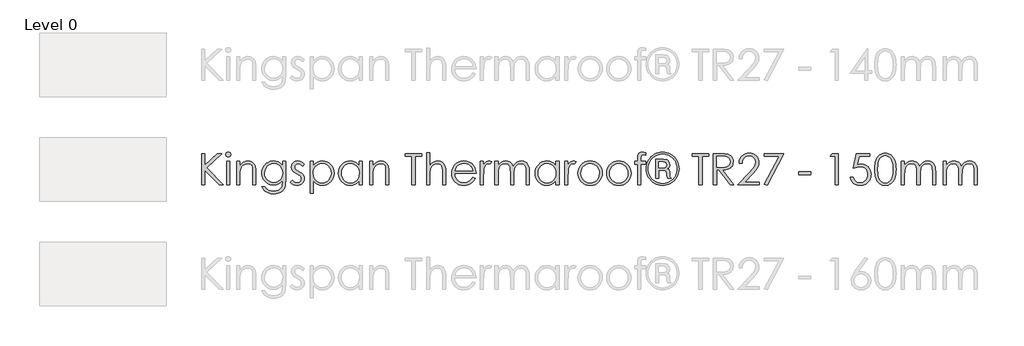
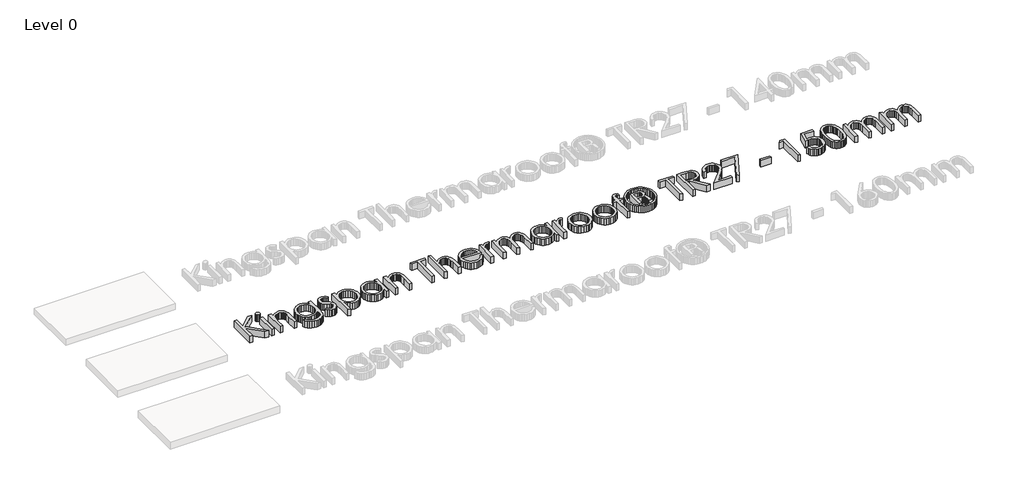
# One storey, part 3 of 12: 1 proxy.
"""IFC4 building model written with IfcOpenShell, lengths in millimetres."""

from ifc_helpers import new_model, si_unit, origin, origin_with_axes, place, context, project, spatial, polyline, outline, extrude, element, save

model = new_model("IFC4")

# Units and contexts
model_context = context("Model", 3, world=origin())
ifc_project = project(units=[si_unit("LENGTHUNIT", "METRE", prefix="MILLI")], contexts=[model_context])

# Site, building, storey
site = spatial("IfcSite", under=ifc_project)
building = spatial("IfcBuilding", under=site)
storey = spatial("IfcBuildingStorey", under=building, Name="Level 0", Elevation=0.0)

# Proxy
placement = place(None, origin())
element("IfcBuildingElementProxy", 1, Name="600mm KI_CenturyGothic", ObjectType="600mm KI_CenturyGothic", at=placement, inside=storey, context=model_context, shape_type="SweptSolid", body=[
    extrude(outline(polyline([(-3852.2663848, -11919.1039719), (-3792.944575, -11919.1039719), (-3792.944575, -12138.3165973), (-3555.1938841, -11919.1039719), (-3471.6181051, -11919.1039719), (-3760.9664119, -12186.0521161), (-3441.9572002, -12512.3220701), (-3520.8984627, -12512.3220701), (-3792.944575, -12234.0966027), (-3792.944575, -12512.3220701), (-3852.2663848, -12512.3220701), (-3852.2663848, -11919.1039719)])), origin_with_axes(), (0.0, 0.0, 1.0), 150.0),
    extrude(outline(polyline([(-3348.1854852, -11889.443067), (-3329.145347, -11892.7258494), (-3313.1176445, -11902.5741968), (-3302.226531, -11917.0184395), (-3298.5961598, -11934.0889082), (-3302.226531, -11950.9276511), (-3313.1176445, -11965.2946519), (-3329.145347, -11975.1429993), (-3348.1854852, -11978.4257817), (-3366.9938975, -11975.1429993), (-3382.9443581, -11965.2946519), (-3393.8354717, -11950.9276511), (-3397.4658428, -11934.0889082), (-3393.8354717, -11917.0184395), (-3382.9443581, -11902.5741968), (-3366.9938975, -11892.7258494), (-3348.1854852, -11889.443067)])), origin_with_axes(), (0.0, 0.0, 1.0), 150.0),
    extrude(outline(polyline([(-3377.6919062, -12067.4084965), (-3318.3700964, -12067.4084965), (-3318.3700964, -12512.3220701), (-3377.6919062, -12512.3220701), (-3377.6919062, -12067.4084965)])), origin_with_axes(), (0.0, 0.0, 1.0), 150.0),
    extrude(outline(polyline([(-3189.8395084, -12067.4084965), (-3130.5176986, -12067.4084965), (-3130.5176986, -12146.5042429), (-3096.9946967, -12106.9949906), (-3060.0730495, -12079.3037552), (-3019.7141359, -12062.9670849), (-2975.879335, -12057.5215282), (-2953.4357238, -12059.1001603), (-2932.2955704, -12063.8360567), (-2912.4588747, -12071.7292175), (-2893.9256368, -12082.7796425), (-2877.212412, -12096.5045697), (-2862.835756, -12112.4212369), (-2841.0921499, -12150.8297915), (-2833.6238199, -12175.2092788), (-2828.2892984, -12205.5557059), (-2824.0216812, -12284.1493797), (-2824.0216812, -12512.3220701), (-2883.343491, -12512.3220701), (-2883.343491, -12299.1343161), (-2883.343491, -12196.0935683), (-2884.7290183, -12175.296176), (-2889.8125035, -12157.2408725), (-2898.2849788, -12141.927658), (-2910.1464442, -12129.3565322), (-2924.7403432, -12119.5564611), (-2941.4101193, -12112.5564103), (-2980.977303, -12106.9563697), (-3005.3471351, -12109.1143164), (-3028.4038541, -12115.5881565), (-3050.1474602, -12126.3778899), (-3070.5779533, -12141.4835168), (-3088.6622225, -12159.7657184), (-3103.3671568, -12180.0851762), (-3114.6927562, -12202.4418902), (-3122.6390208, -12226.8358604), (-3128.5480292, -12273.9148227), (-3130.5176986, -12348.4146737), (-3130.5176986, -12512.3220701), (-3189.8395084, -12512.3220701), (-3189.8395084, -12067.4084965)])), origin_with_axes(), (0.0, 0.0, 1.0), 150.0),
    extrude(outline(polyline([(-2319.7862977, -12067.4084965), (-2260.4644879, -12067.4084965), (-2260.4644879, -12418.3958712), (-2264.5196897, -12498.6502468), (-2269.588692, -12529.4504703), (-2276.6852953, -12554.0327177), (-2289.9371156, -12582.6460288), (-2307.2924139, -12607.7737973), (-2328.7511904, -12629.4160234), (-2354.3134448, -12647.5727069), (-2383.3226209, -12661.93488), (-2415.122162, -12672.1935752), (-2449.7120682, -12678.3487923), (-2487.0923395, -12680.4005313), (-2541.0458345, -12676.3839504), (-2589.206184, -12664.3342078), (-2630.260275, -12645.506485), (-2662.8949946, -12621.1559634), (-2690.2000204, -12587.8067559), (-2715.2650299, -12541.982975), (-2655.94322, -12541.982975), (-2642.4355358, -12563.1520942), (-2627.0933555, -12581.3956749), (-2609.9166791, -12596.7137171), (-2590.9055067, -12609.1062208), (-2569.7894914, -12618.6697385), (-2546.2982864, -12625.5008225), (-2492.1903075, -12630.9656898), (-2438.5071593, -12625.6359959), (-2415.083541, -12618.9738786), (-2393.93856, -12609.6469144), (-2359.6624492, -12585.6053606), (-2336.8567664, -12556.11825), (-2329.3884364, -12537.4788044), (-2324.0539149, -12513.7703565), (-2319.7862977, -12451.1464538), (-2319.7862977, -12428.4373234), (-2354.757586, -12464.2196521), (-2396.6420279, -12490.617085), (-2443.392712, -12506.8958239), (-2492.9627269, -12512.3220701), (-2522.4063889, -12510.424815), (-2550.9521133, -12504.7330495), (-2578.5999001, -12495.2467738), (-2605.3497494, -12481.9659878), (-2630.1540674, -12465.4748336), (-2651.9652601, -12446.3574535), (-2670.7833277, -12424.6138474), (-2686.6082702, -12400.2440154), (-2699.1456025, -12373.928652), (-2708.1008399, -12346.3484518), (-2713.4739824, -12317.5034149), (-2715.2650299, -12287.3935412), (-2713.3967404, -12257.1050455), (-2707.7918722, -12227.8786265), (-2698.4504251, -12199.7142842), (-2685.3723991, -12172.6120186), (-2668.9971079, -12147.4263185), (-2649.7638648, -12125.0116731), (-2627.67267, -12105.3680823), (-2602.7235235, -12088.495546), (-2575.9833294, -12074.9444132), (-2548.5189922, -12065.2650326), (-2520.3305117, -12059.4574043), (-2491.4178881, -12057.5215282), (-2444.5320306, -12062.4650123), (-2400.8903346, -12077.2954648), (-2359.6045177, -12103.8666921), (-2319.7862977, -12144.0325008), (-2319.7862977, -12067.4084965)]), holes=[polyline([(-2484.1571458, -12106.9563697), (-2529.0154023, -12112.981241), (-2570.5908765, -12131.0558549), (-2606.2187212, -12159.7705461), (-2633.2340897, -12197.715649), (-2650.2659375, -12241.9945911), (-2655.94322, -12289.7107994), (-2653.0080263, -12325.6234738), (-2644.2024452, -12358.2823315), (-2629.5264766, -12387.6873725), (-2608.9801206, -12413.8385968), (-2583.7606272, -12435.2973732), (-2555.0652466, -12450.6250707), (-2522.8939786, -12459.8216891), (-2487.2468234, -12462.8872286), (-2451.3244937, -12459.8458272), (-2419.1001219, -12450.7216231), (-2390.573708, -12435.5146162), (-2365.7452519, -12414.2248065), (-2345.6382095, -12387.9818574), (-2331.2760363, -12357.9154323), (-2322.6587323, -12324.0255312), (-2319.7862977, -12286.3121541), (-2325.0773706, -12237.611111), (-2340.9505892, -12194.3942456), (-2366.4983608, -12158.1677758), (-2400.8130926, -12130.4379194), (-2440.9982119, -12112.8267571), (-2484.1571458, -12106.9563697)])]), origin_with_axes(), (0.0, 0.0, 1.0), 150.0),
    extrude(outline(polyline([(-1904.5336289, -12118.6971445), (-1940.9918246, -12156.3912112), (-1962.9575012, -12134.763468), (-1984.6721416, -12119.3150801), (-2006.1357456, -12110.0460473), (-2027.3483133, -12106.9563697), (-2052.181597, -12111.629507), (-2073.2300256, -12125.6489191), (-2087.5970264, -12145.8863074), (-2092.3860267, -12169.2133732), (-2088.4466878, -12190.7638744), (-2076.628671, -12211.2329885), (-2052.0657341, -12233.4014252), (-2010.2006027, -12259.1229912), (-1958.3326401, -12291.9894366), (-1939.8428507, -12307.8143791), (-1926.315856, -12323.2338013), (-1909.9791857, -12355.9071419), (-1904.5336289, -12392.4425794), (-1906.9474396, -12418.5889761), (-1914.1888714, -12442.6498404), (-1926.2579245, -12464.6251723), (-1943.1545989, -12484.5149718), (-1963.6719892, -12501.0061259), (-1986.6031901, -12512.7855218), (-2011.9482016, -12519.8531593), (-2039.7070237, -12522.2090384), (-2077.4397114, -12518.327631), (-2113.3958344, -12506.6834085), (-2145.4512394, -12488.2032744), (-2171.4817731, -12463.8141319), (-2135.7959969, -12423.3393554), (-2114.0041146, -12444.9670986), (-2091.5749863, -12460.4154865), (-2068.5086121, -12469.6845193), (-2044.8049918, -12472.7741969), (-2013.637869, -12467.1355353), (-1987.4914724, -12450.2195505), (-1969.7644472, -12425.6566136), (-1963.8554388, -12397.0770958), (-1967.7561567, -12373.2865784), (-1979.4583106, -12352.2767707), (-2005.0253927, -12330.5717856), (-2050.2119275, -12303.7688325), (-2099.762632, -12273.1037823), (-2117.441381, -12257.9450516), (-2130.3890611, -12242.9021839), (-2146.3781427, -12210.7695369), (-2151.7078365, -12174.3113412), (-2149.5305794, -12150.2649598), (-2142.9988078, -12128.3330765), (-2132.1125219, -12108.5156913), (-2116.8717217, -12090.8128042), (-2098.309518, -12076.247871), (-2077.4590218, -12065.8443472), (-2054.3202332, -12059.6022329), (-2028.8931521, -12057.5215282), (-1997.9481, -12061.3450042), (-1966.9064954, -12072.8154322), (-1935.7683384, -12091.9328124), (-1904.5336289, -12118.6971445)])), origin_with_axes(), (0.0, 0.0, 1.0), 150.0),
    extrude(outline(polyline([(-1795.7769776, -12067.4084965), (-1736.4551678, -12067.4084965), (-1736.4551678, -12148.5125333), (-1700.9238754, -12108.2694827), (-1660.4490989, -12079.9216907), (-1614.9922173, -12063.1215688), (-1564.5146096, -12057.5215282), (-1520.0618732, -12061.7601796), (-1478.9305402, -12074.476134), (-1441.1206107, -12095.6693912), (-1406.6320845, -12125.3399514), (-1377.9077381, -12160.9774514), (-1357.3903478, -12200.0715282), (-1345.0799137, -12242.6221818), (-1340.9764356, -12288.6294123), (-1345.0412927, -12335.5297526), (-1357.235864, -12378.7514456), (-1377.5601494, -12418.2944912), (-1406.014149, -12454.1588894), (-1440.2130179, -12483.9308296), (-1477.7719111, -12505.1965012), (-1518.6908288, -12517.9559041), (-1562.9697708, -12522.2090384), (-1612.6170277, -12516.7441712), (-1658.0545988, -12500.3495695), (-1699.3211052, -12473.1024752), (-1736.4551678, -12435.0801303), (-1736.4551678, -12670.513563), (-1795.7769776, -12670.513563), (-1795.7769776, -12067.4084965)]), holes=[polyline([(-1568.5311905, -12106.9563697), (-1602.5852307, -12110.253635), (-1633.8392507, -12120.1454309), (-1662.2932503, -12136.6317574), (-1687.9472295, -12159.7126146), (-1709.1694525, -12187.6983349), (-1724.3281832, -12218.899251), (-1733.4234216, -12253.3153629), (-1736.4551678, -12290.9466705), (-1731.048232, -12339.8021974), (-1714.8274246, -12383.4825144), (-1688.5265441, -12420.3269197), (-1652.8793888, -12448.6747117), (-1611.4390881, -12466.7493256), (-1567.7587711, -12472.7741969), (-1525.0632888, -12466.7107046), (-1485.0326535, -12448.5202278), (-1450.2544701, -12419.4193269), (-1423.3163435, -12380.6245626), (-1406.05277, -12335.9594109), (-1400.2982454, -12289.2473478), (-1405.9948385, -12242.3035588), (-1423.0846177, -12197.8701329), (-1449.8103289, -12159.5195098), (-1484.414718, -12130.8241291), (-1524.7157001, -12112.9233095), (-1568.5311905, -12106.9563697)])]), origin_with_axes(), (0.0, 0.0, 1.0), 150.0),
    extrude(outline(polyline([(-807.0801472, -12067.4084965), (-807.0801472, -12512.3220701), (-866.401957, -12512.3220701), (-866.401957, -12436.4704852), (-903.4780882, -12474.3190357), (-944.8797679, -12501.0447469), (-990.4525125, -12516.9179656), (-1040.0418379, -12522.2090384), (-1084.3159523, -12517.9559041), (-1125.2203871, -12505.1965012), (-1162.7551422, -12483.9308296), (-1196.9202178, -12454.1588894), (-1225.340424, -12418.2944912), (-1245.6405713, -12378.7514456), (-1257.8206597, -12335.5297526), (-1261.8806892, -12288.6294123), (-1257.7820388, -12242.6221818), (-1245.4860875, -12200.0715282), (-1224.9928353, -12160.9774514), (-1196.3022822, -12125.3399514), (-1161.8475494, -12095.6693912), (-1124.061758, -12074.476134), (-1082.9449079, -12061.7601796), (-1038.4969991, -12057.5215282), (-987.7490446, -12063.1215688), (-942.0990581, -12079.9216907), (-921.2051134, -12092.6086793), (-901.6242816, -12108.2694827), (-866.401957, -12148.5125333), (-866.401957, -12067.4084965), (-807.0801472, -12067.4084965)]), holes=[polyline([(-1034.3259343, -12106.9563697), (-1078.1414247, -12112.9233095), (-1118.4424068, -12130.8241291), (-1153.0467959, -12159.5195098), (-1179.7725071, -12197.8701329), (-1196.8622863, -12242.3035588), (-1202.5588794, -12289.2473478), (-1196.8043548, -12335.9594109), (-1179.5407813, -12380.6245626), (-1152.6026548, -12419.4193269), (-1117.8244713, -12448.5202278), (-1077.6779731, -12466.7107046), (-1034.6349021, -12472.7741969), (-991.0125165, -12466.7493256), (-949.7460102, -12448.6747117), (-914.2726493, -12420.3269197), (-888.0297002, -12383.4825144), (-871.8088928, -12339.8021974), (-866.401957, -12290.9466705), (-869.4337032, -12253.3153629), (-878.5289416, -12218.899251), (-893.6876723, -12187.6983349), (-914.9098953, -12159.7126146), (-940.5638746, -12136.6317574), (-969.0178742, -12120.1454309), (-1000.2718941, -12110.253635), (-1034.3259343, -12106.9563697)])]), origin_with_axes(), (0.0, 0.0, 1.0), 150.0),
    extrude(outline(polyline([(-668.662591, -12067.4084965), (-609.3407811, -12067.4084965), (-609.3407811, -12146.5042429), (-575.8177792, -12106.9949906), (-538.896132, -12079.3037552), (-498.5372184, -12062.9670849), (-454.7024175, -12057.5215282), (-432.2588064, -12059.1001603), (-411.1186529, -12063.8360567), (-391.2819572, -12071.7292175), (-372.7487193, -12082.7796425), (-356.0354946, -12096.5045697), (-341.6588385, -12112.4212369), (-319.9152324, -12150.8297915), (-312.4469024, -12175.2092788), (-307.1123809, -12205.5557059), (-302.8447637, -12284.1493797), (-302.8447637, -12512.3220701), (-362.1665735, -12512.3220701), (-362.1665735, -12299.1343161), (-362.1665735, -12196.0935683), (-363.5521008, -12175.296176), (-368.635586, -12157.2408725), (-377.1080613, -12141.927658), (-388.9695267, -12129.3565322), (-403.5634257, -12119.5564611), (-420.2332018, -12112.5564103), (-459.8003855, -12106.9563697), (-484.1702176, -12109.1143164), (-507.2269366, -12115.5881565), (-528.9705427, -12126.3778899), (-549.4010358, -12141.4835168), (-567.485305, -12159.7657184), (-582.1902393, -12180.0851762), (-593.5158387, -12202.4418902), (-601.4621033, -12226.8358604), (-607.3711117, -12273.9148227), (-609.3407811, -12348.4146737), (-609.3407811, -12512.3220701), (-668.662591, -12512.3220701), (-668.662591, -12067.4084965)])), origin_with_axes(), (0.0, 0.0, 1.0), 150.0),
    extrude(outline(polyline([(3.6512537, -11968.5388134), (3.6512537, -11919.1039719), (320.0342394, -11919.1039719), (320.0342394, -11968.5388134), (191.5036515, -11968.5388134), (191.5036515, -12512.3220701), (132.1818417, -12512.3220701), (132.1818417, -11968.5388134), (3.6512537, -11968.5388134)])), origin_with_axes(), (0.0, 0.0, 1.0), 150.0),
    extrude(outline(polyline([(409.0169542, -11899.3300353), (468.338764, -11899.3300353), (468.338764, -12148.0490817), (502.1128022, -12108.3467246), (539.1696229, -12080.0761746), (579.470605, -12063.1601898), (622.9771276, -12057.5215282), (645.4207388, -12059.1001603), (666.5608922, -12063.8360567), (686.3975879, -12071.7292175), (704.9308258, -12082.7796425), (721.6440506, -12096.4900868), (736.0207066, -12112.3633055), (757.7643127, -12150.5980657), (765.2326428, -12174.9051387), (770.5671642, -12205.2660486), (774.8347814, -12284.1493797), (774.8347814, -12512.3220701), (715.5129716, -12512.3220701), (715.5129716, -12299.1343161), (714.1226167, -12234.7531592), (709.9515519, -12196.0935683), (696.4342124, -12157.2408725), (686.7210385, -12141.927658), (675.0381951, -12129.3565322), (661.3953375, -12119.5564611), (645.8021209, -12112.5564103), (608.7646107, -12106.9563697), (585.8961689, -12109.1143164), (564.2539428, -12115.5881565), (543.8379326, -12126.3778899), (524.6481382, -12141.4835168), (507.659739, -12159.7657184), (493.8479146, -12180.0851762), (483.212665, -12202.4418902), (475.7539902, -12226.8358604), (470.1925705, -12273.6830969), (468.338764, -12348.4146737), (468.338764, -12512.3220701), (409.0169542, -12512.3220701), (409.0169542, -11899.3300353)])), origin_with_axes(), (0.0, 0.0, 1.0), 150.0),
    extrude(outline(polyline([(1280.6150037, -12364.0175456), (1328.5050064, -12389.198418), (1302.8799929, -12431.0828599), (1273.5859872, -12464.0458577), (1240.5071264, -12489.1301777), (1203.5275477, -12507.378586), (1162.048626, -12518.5014253), (1115.4717363, -12522.2090384), (1063.9803281, -12517.7772821), (1018.4172388, -12504.4820132), (978.7824684, -12482.3232317), (945.0760169, -12451.3009376), (918.1765113, -12414.6979134), (898.9625788, -12375.7969414), (887.4342193, -12334.5980217), (883.5914328, -12291.1011543), (886.8742152, -12250.2208577), (896.7225625, -12211.6191982), (913.1364748, -12175.296176), (936.1159519, -12141.251791), (972.3038007, -12104.619801), (1014.1303111, -12078.4540939), (1061.5954832, -12062.7546696), (1114.6993169, -12057.5215282), (1169.3479893, -12062.889843), (1218.2035163, -12078.9947874), (1261.2658978, -12105.8363615), (1298.5351338, -12143.4145653), (1320.008393, -12175.5858333), (1335.456781, -12211.5419563), (1344.8802977, -12251.2829343), (1348.278943, -12294.8087674), (942.9132426, -12294.8087674), (946.6498214, -12332.0635206), (956.1602353, -12365.8134207), (971.4444841, -12396.0584678), (992.502568, -12422.7986618), (1017.86689, -12444.6629584), (1046.0698533, -12460.2803131), (1077.1114579, -12469.650726), (1110.9917037, -12472.7741969), (1144.5147056, -12469.7617613), (1177.1108043, -12460.7244543), (1206.8489511, -12446.6857317), (1231.7980977, -12428.6690492), (1255.2796474, -12402.5033421), (1280.6150037, -12364.0175456)]), holes=[polyline([(1288.9571332, -12245.3739259), (1274.5322009, -12202.852238), (1254.7389538, -12169.8313087), (1228.6311782, -12144.3028476), (1195.2626601, -12124.2585642), (1157.3175572, -12111.2819183), (1117.4800267, -12106.9563697), (1085.0577224, -12109.6694928), (1054.9912973, -12117.8088622), (1027.2807514, -12131.3744779), (1001.9260846, -12150.3663399), (985.3866543, -12168.1802623), (970.9906877, -12189.9528341), (958.738185, -12215.6840553), (948.6291461, -12245.3739259), (1288.9571332, -12245.3739259)])]), origin_with_axes(), (0.0, 0.0, 1.0), 150.0),
    extrude(outline(polyline([(1427.3746895, -12067.4084965), (1486.6964993, -12067.4084965), (1486.6964993, -12131.8282743), (1512.2442709, -12098.7880345), (1539.1437765, -12075.673384), (1567.317774, -12062.0594921), (1596.6890217, -12057.5215282), (1620.0160875, -12061.3063832), (1644.8879922, -12072.6609484), (1615.3815711, -12114.6805637), (1586.8020534, -12106.9563697), (1560.3853099, -12112.903999), (1534.8954698, -12130.7468872), (1512.8428959, -12161.1029695), (1496.7379515, -12204.5901817), (1489.2068623, -12262.7147414), (1486.6964993, -12360.1554486), (1486.6964993, -12512.3220701), (1427.3746895, -12512.3220701), (1427.3746895, -12067.4084965)])), origin_with_axes(), (0.0, 0.0, 1.0), 150.0),
    extrude(outline(polyline([(1704.209802, -12067.4084965), (1763.5316118, -12067.4084965), (1763.5316118, -12143.5690492), (1793.1152748, -12107.0722326), (1823.4713571, -12081.9299812), (1866.8813274, -12063.6236414), (1912.4540719, -12057.5215282), (1943.2929164, -12060.6691372), (1972.4710592, -12070.1119644), (1998.2312461, -12084.7879329), (2018.8162231, -12103.6349663), (2035.5970345, -12129.066875), (2049.9447249, -12163.4974697), (2064.7220735, -12139.0986719), (2081.247021, -12117.8088622), (2099.5195674, -12099.6280406), (2119.5397127, -12084.5562071), (2140.83435, -12072.7285351), (2162.9303724, -12064.2801979), (2185.82778, -12059.2111956), (2209.5265726, -12057.5215282), (2251.8551557, -12063.3339841), (2271.0497777, -12070.5995541), (2288.9312868, -12080.7713521), (2305.0458865, -12093.5404102), (2318.9397805, -12108.5977609), (2340.065451, -12145.5773396), (2347.3648143, -12168.9526817), (2352.5786453, -12197.5225442), (2356.74971, -12270.2458306), (2356.74971, -12512.3220701), (2297.4279002, -12512.3220701), (2297.4279002, -12266.6927013), (2294.9754686, -12205.5750164), (2287.6181738, -12167.1278408), (2274.3132497, -12142.6614564), (2254.01793, -12123.4861448), (2227.9487753, -12111.0888135), (2197.3223461, -12106.9563697), (2177.6739277, -12108.5060361), (2158.894481, -12113.1550353), (2123.9425033, -12131.7510324), (2095.2085016, -12160.6974493), (2075.434565, -12197.9473748), (2068.743482, -12222.1047915), (2063.9641369, -12253.1753619), (2060.1406609, -12336.0559633), (2060.1406609, -12512.3220701), (2000.8188511, -12512.3220701), (2000.8188511, -12281.9866054), (1998.4050405, -12213.5309362), (1991.1636086, -12171.2989056), (1977.9166159, -12145.0559565), (1957.4861228, -12124.567532), (1931.1659318, -12111.3591602), (1900.2498454, -12106.9563697), (1863.3088876, -12113.0005515), (1828.801051, -12131.1330969), (1799.8353235, -12159.5001993), (1779.5206934, -12196.2480522), (1767.5288822, -12248.0773938), (1763.5316118, -12321.6889625), (1763.5316118, -12512.3220701), (1704.209802, -12512.3220701), (1704.209802, -12067.4084965)])), origin_with_axes(), (0.0, 0.0, 1.0), 150.0),
    extrude(outline(polyline([(2920.3069034, -12067.4084965), (2920.3069034, -12512.3220701), (2860.9850935, -12512.3220701), (2860.9850935, -12436.4704852), (2823.9089624, -12474.3190357), (2782.5072826, -12501.0447469), (2736.9345381, -12516.9179656), (2687.3452127, -12522.2090384), (2643.0710983, -12517.9559041), (2602.1666635, -12505.1965012), (2564.6319083, -12483.9308296), (2530.4668328, -12454.1588894), (2502.0466266, -12418.2944912), (2481.7464792, -12378.7514456), (2469.5663908, -12335.5297526), (2465.5063614, -12288.6294123), (2469.6050118, -12242.6221818), (2481.9009631, -12200.0715282), (2502.3942153, -12160.9774514), (2531.0847683, -12125.3399514), (2565.5395011, -12095.6693912), (2603.3252926, -12074.476134), (2644.4421427, -12061.7601796), (2688.8900515, -12057.5215282), (2739.638006, -12063.1215688), (2785.2879925, -12079.9216907), (2806.1819372, -12092.6086793), (2825.7627689, -12108.2694827), (2860.9850935, -12148.5125333), (2860.9850935, -12067.4084965), (2920.3069034, -12067.4084965)]), holes=[polyline([(2693.0611162, -12106.9563697), (2649.2456259, -12112.9233095), (2608.9446437, -12130.8241291), (2574.3402547, -12159.5195098), (2547.6145435, -12197.8701329), (2530.5247643, -12242.3035588), (2524.8281712, -12289.2473478), (2530.5826957, -12335.9594109), (2547.8462693, -12380.6245626), (2574.7843958, -12419.4193269), (2609.5625792, -12448.5202278), (2649.7090775, -12466.7107046), (2692.7521485, -12472.7741969), (2736.374534, -12466.7493256), (2777.6410404, -12448.6747117), (2813.1144013, -12420.3269197), (2839.3573504, -12383.4825144), (2855.5781577, -12339.8021974), (2860.9850935, -12290.9466705), (2857.9533474, -12253.3153629), (2848.858109, -12218.899251), (2833.6993783, -12187.6983349), (2812.4771553, -12159.7126146), (2786.823176, -12136.6317574), (2758.3691764, -12120.1454309), (2727.1151565, -12110.253635), (2693.0611162, -12106.9563697)])]), origin_with_axes(), (0.0, 0.0, 1.0), 150.0),
    extrude(outline(polyline([(3029.0635547, -12067.4084965), (3088.3853645, -12067.4084965), (3088.3853645, -12131.8282743), (3113.9331361, -12098.7880345), (3140.8326417, -12075.673384), (3169.0066393, -12062.0594921), (3198.3778869, -12057.5215282), (3221.7049527, -12061.3063832), (3246.5768574, -12072.6609484), (3217.0704364, -12114.6805637), (3188.4909186, -12106.9563697), (3162.0741752, -12112.903999), (3136.584335, -12130.7468872), (3114.5317612, -12161.1029695), (3098.4268167, -12204.5901817), (3090.8957276, -12262.7147414), (3088.3853645, -12360.1554486), (3088.3853645, -12512.3220701), (3029.0635547, -12512.3220701), (3029.0635547, -12067.4084965)])), origin_with_axes(), (0.0, 0.0, 1.0), 150.0),
    extrude(outline(polyline([(3508.7360013, -12057.5215282), (3558.0453247, -12062.1463893), (3602.932547, -12076.0209728), (3643.3976682, -12099.1452785), (3679.4406884, -12131.5193066), (3706.340194, -12166.7512864), (3725.5541265, -12205.0922543), (3737.0824861, -12246.5422103), (3740.9252726, -12291.1011543), (3736.8604155, -12335.9159623), (3724.6658442, -12377.8245423), (3704.3415588, -12416.8268943), (3675.8875592, -12452.9230184), (3641.0514443, -12483.2356521), (3601.580813, -12504.8875334), (3557.4756654, -12517.8786622), (3508.7360013, -12522.2090384), (3459.8611639, -12517.8786622), (3415.6594638, -12504.8875334), (3376.130901, -12483.2356521), (3341.2754757, -12452.9230184), (3312.8214761, -12416.8268943), (3292.4971906, -12377.8245423), (3280.3026194, -12335.9159623), (3276.2377623, -12291.1011543), (3280.0805488, -12246.7353151), (3291.6089083, -12205.401222), (3310.8228409, -12167.0988751), (3337.7223464, -12131.8282743), (3373.7846771, -12099.3190729), (3414.3077298, -12076.0982147), (3459.2915046, -12062.1656998), (3508.7360013, -12057.5215282)]), holes=[polyline([(3508.5815174, -12106.9563697), (3474.3054066, -12110.3308769), (3442.5396588, -12120.4543987), (3413.2842741, -12137.3269349), (3386.5392524, -12160.9484856), (3364.2356423, -12189.3590367), (3348.3044922, -12220.5985737), (3338.7458021, -12254.6670968), (3335.5595721, -12291.564606), (3341.3720281, -12339.3001248), (3358.809396, -12383.6369983), (3386.1530427, -12421.4276174), (3421.6843351, -12449.524373), (3463.2211882, -12466.9617409), (3508.5815174, -12472.7741969), (3553.9418466, -12466.9617409), (3595.4786998, -12449.524373), (3631.0099921, -12421.4276174), (3658.3536389, -12383.6369983), (3675.7910068, -12339.3001248), (3681.6034628, -12291.564606), (3678.4027499, -12254.6670968), (3668.8006112, -12220.5985737), (3652.7970468, -12189.3590367), (3630.3920566, -12160.9484856), (3603.5746206, -12137.3269349), (3574.3337188, -12120.4543987), (3542.669351, -12110.3308769), (3508.5815174, -12106.9563697)])]), origin_with_axes(), (0.0, 0.0, 1.0), 150.0),
    extrude(outline(polyline([(4052.519258, -12057.5215282), (4101.8285814, -12062.1463893), (4146.7158037, -12076.0209728), (4187.180925, -12099.1452785), (4223.2239452, -12131.5193066), (4250.1234507, -12166.7512864), (4269.3373833, -12205.0922543), (4280.8657428, -12246.5422103), (4284.7085293, -12291.1011543), (4280.6436722, -12335.9159623), (4268.4491009, -12377.8245423), (4248.1248155, -12416.8268943), (4219.6708159, -12452.9230184), (4184.834701, -12483.2356521), (4145.3640698, -12504.8875334), (4101.2589221, -12517.8786622), (4052.519258, -12522.2090384), (4003.6444206, -12517.8786622), (3959.4427205, -12504.8875334), (3919.9141578, -12483.2356521), (3885.0587324, -12452.9230184), (3856.6047328, -12416.8268943), (3836.2804474, -12377.8245423), (3824.0858761, -12335.9159623), (3820.021019, -12291.1011543), (3823.8638055, -12246.7353151), (3835.392165, -12205.401222), (3854.6060976, -12167.0988751), (3881.5056031, -12131.8282743), (3917.5679338, -12099.3190729), (3958.0909865, -12076.0982147), (4003.0747613, -12062.1656998), (4052.519258, -12057.5215282)]), holes=[polyline([(4052.3647741, -12106.9563697), (4018.0886633, -12110.3308769), (3986.3229156, -12120.4543987), (3957.0675308, -12137.3269349), (3930.3225091, -12160.9484856), (3908.018899, -12189.3590367), (3892.0877489, -12220.5985737), (3882.5290589, -12254.6670968), (3879.3428288, -12291.564606), (3885.1552848, -12339.3001248), (3902.5926527, -12383.6369983), (3929.9362994, -12421.4276174), (3965.4675918, -12449.524373), (4007.004445, -12466.9617409), (4052.3647741, -12472.7741969), (4097.7251033, -12466.9617409), (4139.2619565, -12449.524373), (4174.7932489, -12421.4276174), (4202.1368956, -12383.6369983), (4219.5742635, -12339.3001248), (4225.3867195, -12291.564606), (4222.1860066, -12254.6670968), (4212.5838679, -12220.5985737), (4196.5803035, -12189.3590367), (4174.1753133, -12160.9484856), (4147.3578773, -12137.3269349), (4118.1169755, -12120.4543987), (4086.4526077, -12110.3308769), (4052.3647741, -12106.9563697)])]), origin_with_axes(), (0.0, 0.0, 1.0), 150.0),
    extrude(outline(polyline([(4561.5436418, -11900.7203902), (4561.5436418, -11952.318006), (4535.2813822, -11942.2379329), (4513.0357036, -11938.8779085), (4499.3059487, -11940.5579207), (4488.086557, -11945.5979573), (4479.9761533, -11952.8200787), (4475.5733627, -11961.0463453), (4473.0243787, -12007.623235), (4473.0243787, -12067.4084965), (4561.5436418, -12067.4084965), (4561.5436418, -12116.843338), (4472.8698948, -12116.843338), (4472.8698948, -12512.3220701), (4413.2391172, -12512.3220701), (4413.2391172, -12116.843338), (4353.9173074, -12116.843338), (4353.9173074, -12067.4084965), (4413.2391172, -12067.4084965), (4413.2391172, -11999.899041), (4415.3246496, -11960.0615105), (4421.5812467, -11933.5482147), (4432.8392595, -11915.6280846), (4449.9290387, -11901.5700515), (4472.000923, -11892.4748131), (4498.2052511, -11889.443067), (4527.2482205, -11892.2623978), (4561.5436418, -11900.7203902)])), origin_with_axes(), (0.0, 0.0, 1.0), 150.0),
    extrude(outline(polyline([(5194.3096132, -12205.2081172), (5191.7075254, -12247.1504905), (5183.9012619, -12287.5480251), (5170.8908226, -12326.4007209), (5152.6762077, -12363.7085778), (5129.9284564, -12398.3467602), (5103.3186081, -12429.1904323), (5072.8466628, -12456.2395942), (5038.5126205, -12479.4942457), (5001.5958009, -12498.1819675), (4963.3755235, -12511.5303402), (4923.8517884, -12519.5393639), (4883.0245956, -12522.2090384), (4842.2649894, -12519.5538468), (4802.7895305, -12511.5882717), (4764.5982189, -12498.3123133), (4727.6910545, -12479.7259715), (4693.3425293, -12456.5582172), (4662.8271355, -12429.5380211), (4636.1448729, -12398.6653832), (4613.2957415, -12363.9403036), (4594.9797465, -12326.6372743), (4581.896893, -12288.0307872), (4574.0471808, -12248.1208424), (4571.4306101, -12206.9074399), (4574.0471808, -12165.2402409), (4581.896893, -12124.8958102), (4594.9797465, -12085.8741477), (4613.2957415, -12048.1752534), (4636.13039, -12013.1218956), (4662.769204, -11982.0368424), (4693.2121836, -11954.9200939), (4727.4593286, -11931.77165), (4764.2940787, -11913.252895), (4802.4998732, -11900.0252128), (4842.0767122, -11892.0886034), (4883.0245956, -11889.443067), (4923.9531684, -11892.0741206), (4963.4720759, -11899.9672813), (5001.581318, -11913.1225492), (5038.2808947, -11931.5399242), (5072.4025216, -11954.586988), (5102.7779145, -11981.6313222), (5129.4070733, -12012.6729268), (5152.289998, -12047.7118018), (5170.6735796, -12085.3334541), (5183.8047094, -12124.1233908), (5191.6833873, -12164.0816118), (5194.3096132, -12205.2081172)]), holes=[polyline([(5154.76174, -12205.8260527), (5152.4782752, -12169.6816525), (5145.6278806, -12134.6282946), (5134.2105564, -12100.6659792), (5118.2263025, -12067.7947062), (5098.3220201, -12037.1924151), (5075.1446105, -12010.0370456), (5048.6940737, -11986.3285977), (5018.9704097, -11966.0670713), (4987.0115571, -11949.846264), (4953.8554544, -11938.259973), (4919.5021017, -11931.3081984), (4883.9514988, -11928.9909402), (4848.1353768, -11931.3081984), (4813.4489182, -11938.259973), (4779.892123, -11949.846264), (4747.4649911, -11966.0670713), (4717.3116688, -11986.3285977), (4690.5763024, -12010.0370456), (4667.2588918, -12037.1924151), (4647.359437, -12067.7947062), (4631.4427698, -12100.7142554), (4620.0737217, -12134.8213995), (4613.2522929, -12170.1161384), (4610.9784833, -12206.5984721), (4613.2522929, -12242.9070115), (4620.0737217, -12277.989335), (4631.4427698, -12311.8454428), (4647.359437, -12344.4753348), (4667.268547, -12374.8072791), (4690.6149233, -12401.7695437), (4717.398566, -12425.3621287), (4747.619475, -12445.5850341), (4780.0948831, -12461.8058415), (4813.6420231, -12473.3921324), (4848.260895, -12480.343907), (4883.9514988, -12482.6611652), (4919.3234797, -12480.3294242), (4953.6044181, -12473.334201), (4986.7943142, -12461.6754957), (5018.8931678, -12445.3533083), (5048.7761433, -12425.0435057), (5075.3184049, -12401.421955), (5098.5199526, -12374.488656), (5118.3807864, -12344.243609), (5134.2974536, -12311.6668208), (5145.6665016, -12277.7382987), (5152.4879304, -12242.4580427), (5154.76174, -12205.8260527)])]), origin_with_axes(), (0.0, 0.0, 1.0), 150.0),
    extrude(outline(polyline([(4749.3960396, -12027.8606232), (4893.5294994, -12027.8606232), (4936.9587801, -12030.4675387), (4966.2141648, -12038.2882851), (4986.3356901, -12052.0180399), (5002.3633927, -12072.3519806), (5012.848986, -12097.9576837), (5016.3441838, -12127.5027257), (5014.722103, -12152.799461), (5009.8558608, -12174.3113412), (4997.0336988, -12189.5666244), (4974.6335362, -12206.2895044), (4995.2957552, -12218.976493), (5007.8475704, -12233.5559091), (5014.2200304, -12254.6622692), (5016.3441838, -12286.9300896), (5016.3441838, -12327.0958983), (5021.4035308, -12353.0491901), (5036.581572, -12374.3679655), (5046.0050887, -12383.7914822), (4976.7963106, -12383.7914822), (4967.7590036, -12359.653376), (4961.9658581, -12331.4214469), (4957.022374, -12287.8569929), (4954.4540795, -12267.3299473), (4949.8388735, -12253.9477813), (4942.9836514, -12245.5090993), (4933.6953081, -12239.8125063), (4918.0151943, -12236.5683448), (4891.9846606, -12235.4869576), (4808.7178494, -12235.4869576), (4808.7178494, -12383.7914822), (4749.3960396, -12383.7914822), (4749.3960396, -12027.8606232)]), holes=[polyline([(4808.7178494, -12077.2954648), (4808.7178494, -12186.0521161), (4888.5860152, -12186.0521161), (4919.1738234, -12183.7348579), (4938.0208567, -12176.7830833), (4946.3340205, -12168.8947502), (4952.2719947, -12158.6698484), (4957.022374, -12131.2103388), (4953.6044181, -12106.9949906), (4943.3505506, -12090.2721107), (4923.6345454, -12080.5396262), (4891.8301767, -12077.2954648), (4808.7178494, -12077.2954648)])]), origin_with_axes(), (0.0, 0.0, 1.0), 150.0),
    extrude(outline(polyline([(5441.4838208, -11968.5388134), (5441.4838208, -11919.1039719), (5757.8668066, -11919.1039719), (5757.8668066, -11968.5388134), (5629.3362186, -11968.5388134), (5629.3362186, -12512.3220701), (5570.0144088, -12512.3220701), (5570.0144088, -11968.5388134), (5441.4838208, -11968.5388134)])), origin_with_axes(), (0.0, 0.0, 1.0), 150.0),
    extrude(outline(polyline([(5846.8495213, -11919.1039719), (5966.5745281, -11919.1039719), (6050.4206538, -11921.0350204), (6102.0568906, -11926.8281659), (6127.5370756, -11934.3640826), (6150.5262079, -11945.2310581), (6171.0242877, -11959.4290921), (6189.0313149, -11976.9581849), (6203.6976283, -11997.2583322), (6214.1735664, -12019.76953), (6220.4591292, -12044.4917784), (6222.5543169, -12071.4250773), (6216.7804818, -12115.2791887), (6209.5631881, -12135.1062291), (6199.4589768, -12153.5332594), (6186.6754358, -12170.1740698), (6171.4201527, -12184.6424507), (6133.4943602, -12207.0619238), (6110.0176381, -12214.9985331), (6082.4567484, -12220.7337471), (6015.0824664, -12225.5999893), (6232.4412852, -12512.3220701), (6160.4517972, -12512.3220701), (5943.0929784, -12225.5999893), (5906.1713311, -12225.5999893), (5906.1713311, -12512.3220701), (5846.8495213, -12512.3220701), (5846.8495213, -11919.1039719)]), holes=[polyline([(5906.1713311, -11968.5388134), (5906.1713311, -12176.1651478), (6011.0658855, -12176.7830833), (6064.1310982, -12173.8865106), (6101.2844713, -12165.1967923), (6127.276384, -12150.1153036), (6146.8572158, -12128.0434193), (6159.1386842, -12100.9894298), (6163.232507, -12070.9616257), (6159.0807528, -12041.7448619), (6146.62549, -12015.270187), (6127.4308679, -11993.7389963), (6103.0610359, -11979.352685), (6067.2014653, -11971.2422813), (6013.5376276, -11968.5388134), (5906.1713311, -11968.5388134)])]), origin_with_axes(), (0.0, 0.0, 1.0), 150.0),
    extrude(outline(polyline([(6390.632778, -12097.0694014), (6331.3109682, -12097.0694014), (6335.7958283, -12057.8111854), (6346.9331505, -12022.2219616), (6364.7229348, -11990.30173), (6389.1651812, -11962.0504905), (6418.5605669, -11938.93584), (6451.2097694, -11922.4253753), (6487.1127885, -11912.5190965), (6526.2696244, -11909.2170036), (6564.7409381, -11912.5142689), (6599.35981, -11922.4060648), (6630.1262402, -11938.8923914), (6657.0402286, -11961.9732485), (6678.9045253, -11989.5341382), (6694.52188, -12019.4605623), (6703.8922928, -12051.7525208), (6707.0157637, -12086.4100137), (6700.932961, -12135.2076092), (6682.6845527, -12180.8769061), (6646.902224, -12232.7641792), (6588.2176602, -12300.2157032), (6435.4331031, -12462.8872286), (6716.902732, -12462.8872286), (6716.902732, -12512.3220701), (6311.5370316, -12512.3220701), (6537.5469477, -12271.6361855), (6594.2811525, -12206.11571), (6626.993114, -12160.0215824), (6642.5187439, -12122.655794), (6647.6939539, -12083.3203361), (6645.4442824, -12058.7139506), (6638.6952679, -12035.8744745), (6627.4469104, -12014.8019078), (6611.6992099, -11995.4962504), (6592.6880375, -11979.3768231), (6571.6492641, -11967.8629464), (6548.5828898, -11960.9546204), (6523.4889146, -11958.6518451), (6497.1542407, -11960.9256547), (6473.1464803, -11967.7470835), (6451.4656333, -11979.1161316), (6432.1116997, -11995.0327988), (6415.8764095, -12015.0529441), (6403.5514925, -12038.7324263), (6395.1369486, -12066.0712454), (6390.632778, -12097.0694014)])), origin_with_axes(), (0.0, 0.0, 1.0), 150.0),
    extrude(outline(polyline([(6805.8854468, -11919.1039719), (7181.5902423, -11919.1039719), (6865.2072566, -12522.2090384), (6811.2923826, -12499.8088759), (7089.9813016, -11968.5388134), (6805.8854468, -11968.5388134), (6805.8854468, -11919.1039719)])), origin_with_axes(), (0.0, 0.0, 1.0), 150.0),
    extrude(outline(polyline([(7458.4253548, -12265.1478625), (7685.8256258, -12265.1478625), (7685.8256258, -12314.5827041), (7458.4253548, -12314.5827041), (7458.4253548, -12265.1478625)])), origin_with_axes(), (0.0, 0.0, 1.0), 150.0),
    extrude(outline(polyline([(8095.362391, -11919.1039719), (8209.8349459, -11919.1039719), (8209.8349459, -12512.3220701), (8150.5131361, -12512.3220701), (8150.5131361, -11968.5388134), (8061.5304214, -11968.5388134), (8095.362391, -11919.1039719)])), origin_with_axes(), (0.0, 0.0, 1.0), 150.0),
    extrude(outline(polyline([(8812.9400125, -11919.1039719), (8812.9400125, -11968.5388134), (8605.6226458, -11968.5388134), (8571.1727407, -12129.5110161), (8608.7509444, -12120.0102575), (8642.3898092, -12116.843338), (8681.9763034, -12120.2661214), (8717.9324264, -12130.5344718), (8750.2581783, -12147.6483891), (8778.9535589, -12171.6078733), (8802.4737296, -12200.9163619), (8819.2738515, -12234.0772922), (8829.3539247, -12271.0906643), (8832.7139491, -12311.9564781), (8830.9904883, -12340.9222056), (8825.8201059, -12368.652062), (8817.202802, -12395.1460473), (8805.1385765, -12420.4041617), (8790.1343297, -12443.6057094), (8772.6969618, -12463.9299948), (8752.8264728, -12481.377018), (8730.5228626, -12495.9467789), (8706.0902715, -12507.4365174), (8679.8328396, -12515.6434735), (8651.7505668, -12520.5676472), (8621.8434532, -12522.2090384), (8586.5100934, -12519.4524667), (8554.0443405, -12511.1827515), (8524.4461947, -12497.3998929), (8497.7156558, -12478.1038908), (8474.9630769, -12454.4340638), (8457.2988108, -12427.5297306), (8444.7228575, -12397.3908912), (8437.2352169, -12364.0175456), (8496.5570267, -12364.0175456), (8506.1350273, -12396.7488176), (8520.656512, -12422.6441779), (8540.4883801, -12442.9588081), (8565.9975307, -12458.9478897), (8595.0211896, -12469.3176201), (8625.3965825, -12472.7741969), (8654.6857605, -12469.8486584), (8681.84113, -12461.072043), (8706.8626909, -12446.4443507), (8729.7504432, -12425.9655814), (8748.8436852, -12401.0936767), (8762.4817152, -12373.2865784), (8770.6645333, -12342.5442863), (8773.3921393, -12308.8668005), (8770.9300524, -12278.6796849), (8763.5437919, -12251.4567287), (8751.2333578, -12227.197932), (8733.9987499, -12205.9032947), (8712.6413535, -12188.5673068), (8687.9625538, -12176.1844583), (8659.9623506, -12168.7547492), (8628.6407439, -12166.2781795), (8599.935708, -12168.1319861), (8568.3534099, -12173.6934057), (8496.5570267, -12195.9390844), (8555.8788366, -11919.1039719), (8812.9400125, -11919.1039719)])), origin_with_axes(), (0.0, 0.0, 1.0), 150.0),
    extrude(outline(polyline([(8901.9227272, -12215.8675049), (8903.5013594, -12161.4360754), (8908.2372558, -12113.541245), (8916.1304165, -12072.1830139), (8927.1808415, -12037.3613818), (8941.1085288, -12007.7197874), (8957.6334763, -11981.901669), (8976.7556841, -11959.9070266), (8998.475152, -11941.7358603), (9022.1691171, -11927.5088605), (9047.2148161, -11917.3467178), (9073.6122491, -11911.2494321), (9101.361416, -11909.2170036), (9129.5643793, -11911.263915), (9156.3962981, -11917.4046492), (9181.8571726, -11927.6392063), (9205.9470026, -11941.9675861), (9228.1299222, -11960.3849611), (9247.8700654, -11982.8865038), (9265.1674323, -12009.4722139), (9280.0220229, -12040.1420917), (9291.951075, -12075.6589012), (9300.4718265, -12116.7854065), (9305.5842774, -12163.5216078), (9307.2884277, -12215.8675049), (9305.6084155, -12268.0540905), (9300.5683789, -12314.621325), (9292.1683179, -12355.5692084), (9280.4082326, -12390.8977407), (9265.6984707, -12421.4227898), (9248.44938, -12447.9602237), (9228.6609605, -12470.5100426), (9206.3332123, -12489.0722462), (9182.0744155, -12503.5695928), (9156.4928505, -12513.9248404), (9129.5885174, -12520.1379889), (9101.361416, -12522.2090384), (9073.6363872, -12520.200748), (9047.3113685, -12514.1758767), (9022.3863601, -12504.1344245), (8998.8613617, -12490.0763914), (8977.2867224, -12472.0403985), (8958.2127909, -12450.0650666), (8941.6395672, -12424.1503958), (8927.5670512, -12394.296386), (8916.3476595, -12359.2768215), (8908.3338082, -12317.8654865), (8903.5254975, -12270.062381), (8901.9227272, -12215.8675049)]), holes=[polyline([(8961.244537, -12215.713021), (8965.6280171, -12304.0391793), (8971.1073672, -12339.0201228), (8978.7784574, -12367.8796426), (8988.5930114, -12392.1191288), (9000.502753, -12413.2399718), (9014.5076822, -12431.2421714), (9030.607799, -12446.1257277), (9065.9073656, -12466.1120796), (9084.3102577, -12471.1086676), (9103.2152225, -12472.7741969), (9122.2070845, -12471.1424609), (9140.5617004, -12466.247253), (9175.3591944, -12446.6664212), (9191.1165501, -12431.9904527), (9204.8656154, -12414.0703226), (9216.6063903, -12392.9060311), (9226.3388747, -12368.4975781), (9235.8010123, -12335.1387153), (9242.5596821, -12298.5550015), (9247.9666178, -12215.713021), (9243.1389966, -12134.1069115), (9237.10447, -12099.4156253), (9228.6561329, -12068.7988514), (9218.0739871, -12042.1358993), (9205.6380348, -12019.3060784), (9191.3482759, -12000.3093888), (9175.2047105, -11985.1458305), (9140.1368698, -11965.2753415), (9121.907772, -11960.3077192), (9103.2152225, -11958.6518451), (9084.1992224, -11960.3077192), (9065.7721922, -11965.2753415), (9030.685041, -11985.1458305), (9014.739408, -11999.9569725), (9000.8117207, -12017.896413), (8988.9019791, -12038.9641521), (8979.0101832, -12063.1601898), (8971.237713, -12092.0148819), (8965.6859486, -12127.0585845), (8961.244537, -12215.713021)])]), origin_with_axes(), (0.0, 0.0, 1.0), 150.0),
    extrude(outline(polyline([(9406.1581107, -12067.4084965), (9465.4799205, -12067.4084965), (9465.4799205, -12143.5690492), (9495.0635835, -12107.0722326), (9525.4196659, -12081.9299812), (9568.8296361, -12063.6236414), (9614.4023806, -12057.5215282), (9645.2412251, -12060.6691372), (9674.4193679, -12070.1119644), (9700.1795548, -12084.7879329), (9720.7645318, -12103.6349663), (9737.5453433, -12129.066875), (9751.8930336, -12163.4974697), (9766.6703822, -12139.0986719), (9783.1953297, -12117.8088622), (9801.4678761, -12099.6280406), (9821.4880214, -12084.5562071), (9842.7826587, -12072.7285351), (9864.8786811, -12064.2801979), (9887.7760887, -12059.2111956), (9911.4748814, -12057.5215282), (9953.8034644, -12063.3339841), (9972.9980865, -12070.5995541), (9990.8795956, -12080.7713521), (10006.9941953, -12093.5404102), (10020.8880892, -12108.5977609), (10042.0137597, -12145.5773396), (10049.3131231, -12168.9526817), (10054.526954, -12197.5225442), (10058.6980188, -12270.2458306), (10058.6980188, -12512.3220701), (9999.3762089, -12512.3220701), (9999.3762089, -12266.6927013), (9996.9237773, -12205.5750164), (9989.5664826, -12167.1278408), (9976.2615584, -12142.6614564), (9955.9662387, -12123.4861448), (9929.897084, -12111.0888135), (9899.2706549, -12106.9563697), (9879.6222364, -12108.5060361), (9860.8427898, -12113.1550353), (9825.890812, -12131.7510324), (9797.1568103, -12160.6974493), (9777.3828737, -12197.9473748), (9770.6917907, -12222.1047915), (9765.9124457, -12253.1753619), (9762.0889696, -12336.0559633), (9762.0889696, -12512.3220701), (9702.7671598, -12512.3220701), (9702.7671598, -12281.9866054), (9700.3533492, -12213.5309362), (9693.1119173, -12171.2989056), (9679.8649246, -12145.0559565), (9659.4344316, -12124.567532), (9633.1142405, -12111.3591602), (9602.1981541, -12106.9563697), (9565.2571964, -12113.0005515), (9530.7493597, -12131.1330969), (9501.7836323, -12159.5001993), (9481.4690021, -12196.2480522), (9469.4771909, -12248.0773938), (9465.4799205, -12321.6889625), (9465.4799205, -12512.3220701), (9406.1581107, -12512.3220701), (9406.1581107, -12067.4084965)])), origin_with_axes(), (0.0, 0.0, 1.0), 150.0),
    extrude(outline(polyline([(10197.115575, -12067.4084965), (10256.4373848, -12067.4084965), (10256.4373848, -12143.5690492), (10286.0210478, -12107.0722326), (10316.3771302, -12081.9299812), (10359.7871004, -12063.6236414), (10405.3598449, -12057.5215282), (10436.1986894, -12060.6691372), (10465.3768322, -12070.1119644), (10491.1370191, -12084.7879329), (10511.7219961, -12103.6349663), (10528.5028076, -12129.066875), (10542.8504979, -12163.4974697), (10557.6278465, -12139.0986719), (10574.152794, -12117.8088622), (10592.4253404, -12099.6280406), (10612.4454857, -12084.5562071), (10633.740123, -12072.7285351), (10655.8361454, -12064.2801979), (10678.733553, -12059.2111956), (10702.4323457, -12057.5215282), (10744.7609287, -12063.3339841), (10763.9555508, -12070.5995541), (10781.8370599, -12080.7713521), (10797.9516596, -12093.5404102), (10811.8455535, -12108.5977609), (10832.9712241, -12145.5773396), (10840.2705874, -12168.9526817), (10845.4844183, -12197.5225442), (10849.6554831, -12270.2458306), (10849.6554831, -12512.3220701), (10790.3336732, -12512.3220701), (10790.3336732, -12266.6927013), (10787.8812417, -12205.5750164), (10780.5239469, -12167.1278408), (10767.2190227, -12142.6614564), (10746.923703, -12123.4861448), (10720.8545483, -12111.0888135), (10690.2281192, -12106.9563697), (10670.5797007, -12108.5060361), (10651.8002541, -12113.1550353), (10616.8482763, -12131.7510324), (10588.1142747, -12160.6974493), (10568.3403381, -12197.9473748), (10561.649255, -12222.1047915), (10556.86991, -12253.1753619), (10553.046434, -12336.0559633), (10553.046434, -12512.3220701), (10493.7246241, -12512.3220701), (10493.7246241, -12281.9866054), (10491.3108135, -12213.5309362), (10484.0693816, -12171.2989056), (10470.822389, -12145.0559565), (10450.3918959, -12124.567532), (10424.0717049, -12111.3591602), (10393.1556184, -12106.9563697), (10356.2146607, -12113.0005515), (10321.706824, -12131.1330969), (10292.7410966, -12159.5001993), (10272.4264664, -12196.2480522), (10260.4346552, -12248.0773938), (10256.4373848, -12321.6889625), (10256.4373848, -12512.3220701), (10197.115575, -12512.3220701), (10197.115575, -12067.4084965)])), origin_with_axes(), (0.0, 0.0, 1.0), 150.0),
])

save(model, "model.ifc")
